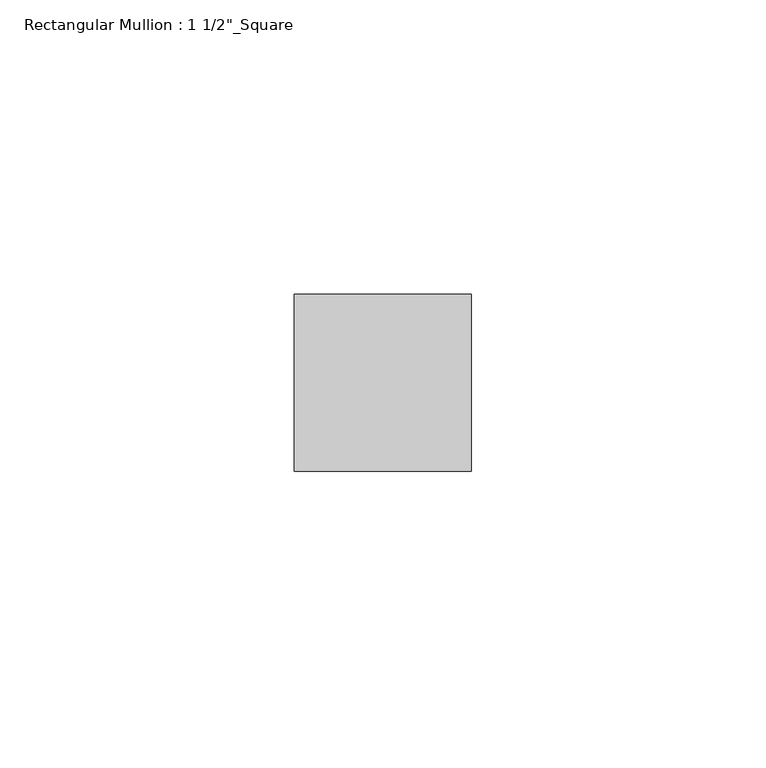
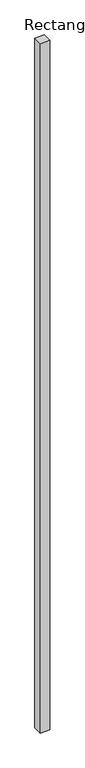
"""IFC4 building model written with IfcOpenShell, lengths in millimetres: member geometry."""

from ifc_helpers import new_model, si_unit, frame, origin, place, context, project, spatial, polyline, outline, extrude, source, transform, mapped, element, save


def member_43f29931(model_context):
    return source(origin(), model_context, "Body", "SweptSolid", [
        extrude(outline(polyline([(0.0, 2.5), (0.0, -27.5), (-30.0, -27.5), (-30.0, 2.5), (0.0, 2.5)])), frame((0.0, 0.0, -2300.0), z_axis=(0.0, 0.0, 1.0), x_axis=(1.0, 0.0, 0.0)), (0.0, 0.0, 1.0), 2300.0),
    ])


if __name__ == "__main__":
    model = new_model("IFC4")
    model_context = context("Model", 3, world=origin())
    ifc_project = project(units=[si_unit("LENGTHUNIT", "METRE", prefix="MILLI")], contexts=[model_context])
    site = spatial("IfcSite", under=ifc_project)
    building = spatial("IfcBuilding", under=site)
    placement = place(None, origin())
    member_shape = member_43f29931(model_context)
    element("IfcMember", 1, ObjectType="Rectangular Mullion : 1 1/2\"_Square", at=placement, inside=building, context=model_context, shape_type="MappedRepresentation", body=[
        mapped(member_shape, transform((0.0, 0.0, 0.0), x_axis=(1.0, 0.0, 0.0), y_axis=(0.0, 1.0, 0.0), z_axis=(0.0, 0.0, 1.0))),
    ])
    save(model, "model.ifc")
